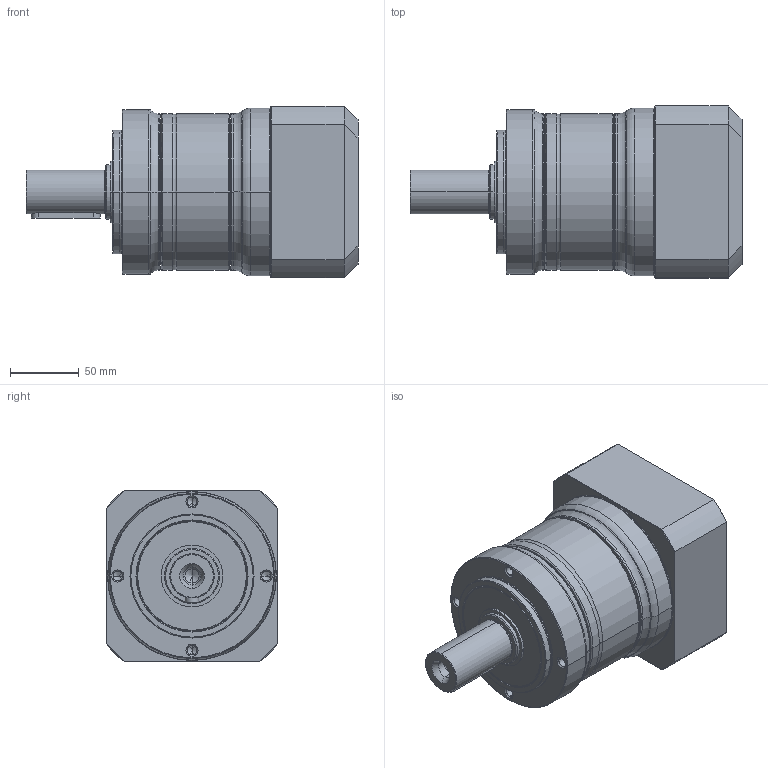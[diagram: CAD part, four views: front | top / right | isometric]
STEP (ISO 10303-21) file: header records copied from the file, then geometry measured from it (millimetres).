
FILE_DESCRIPTION((''),'2;1');
FILE_NAME('PE2-120_1ST_32-P0411700101_ASM','2017-05-31T',('d01943'),(''),'PRO/ENGINEER BY PARAMETRIC TECHNOLOGY CORPORATION, 2008410','PRO/ENGINEER BY PARAMETRIC TECHNOLOGY CORPORATION, 2008410','');
FILE_SCHEMA(('CONFIG_CONTROL_DESIGN'));
Length unit declared in the file: millimetre
Products named in the file (9): P1323410001; P0250400001; P1324400301; P0350401001; P0941403001; P0503700010; P0411700101; P1702600001; PE2-120_1ST_32-P0411700101_ASM
Assembly tree (8 placements, depth 2):
  PE2-120_1ST_32-P0411700101_ASM
    P1323410001
    P0250400001
    P1324400301
    P0350401001
    P0941403001
    P0503700010
    P0411700101
    P1702600001
Bounding box: 241.5 x 125 x 125 mm (x, y, z)
Volume: 1619373.7 mm3; surface area: 260335.5 mm2
Topology: 8 solids, 8 shells, 465 faces, 1022 edges, 586 vertices
Faces by surface type: cone 138, cylinder 136, torus 98, plane 77, bspline 16
Entity records: 17460 total; most frequent: CARTESIAN_POINT 7017, DIRECTION 2379, ORIENTED_EDGE 1980, AXIS2_PLACEMENT_3D 1022, EDGE_CURVE 990, VERTEX_POINT 586, CIRCLE 556, EDGE_LOOP 526
